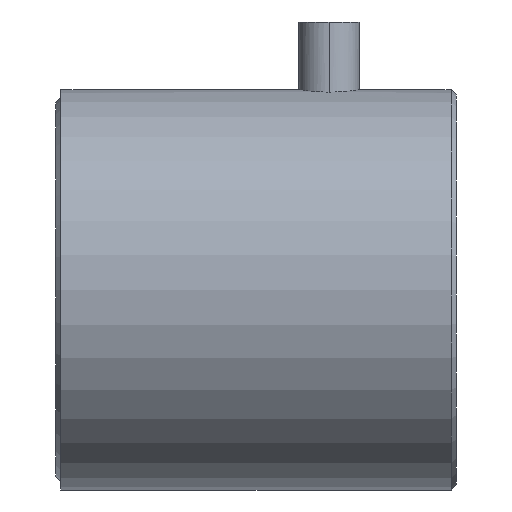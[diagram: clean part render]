
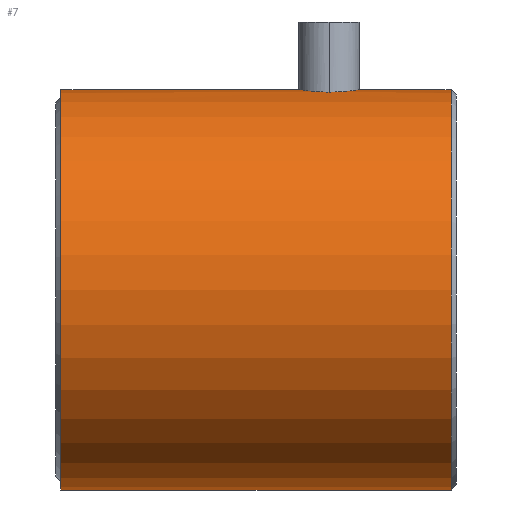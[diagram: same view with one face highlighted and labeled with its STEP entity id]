
A CAD part, left-side view. The second image highlights one B-rep face of the part: STEP entity #7.
In plain terms, the highlighted cylindrical face has radius 14.999 mm (diameter 29.997 mm), a partial arc.
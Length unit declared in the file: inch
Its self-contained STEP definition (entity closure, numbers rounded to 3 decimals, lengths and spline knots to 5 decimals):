
#7 = ADVANCED_FACE ( 'NONE', ( #91 ), #67, .T. ) ;
#12 = ORIENTED_EDGE ( 'NONE', *, *, #381, .T. ) ;
#19 = ORIENTED_EDGE ( 'NONE', *, *, #397, .F. ) ;
#31 = ORIENTED_EDGE ( 'NONE', *, *, #398, .T. ) ;
#33 = ORIENTED_EDGE ( 'NONE', *, *, #404, .T. ) ;
#44 = ORIENTED_EDGE ( 'NONE', *, *, #363, .T. ) ;
#50 = EDGE_LOOP ( 'NONE', ( #19, #54, #31, #33, #56, #12, #44 ) ) ;
#54 = ORIENTED_EDGE ( 'NONE', *, *, #399, .F. ) ;
#56 = ORIENTED_EDGE ( 'NONE', *, *, #386, .F. ) ;
#67 = CYLINDRICAL_SURFACE ( 'NONE', #385, 0.5905 ) ;
#91 = FACE_OUTER_BOUND ( 'NONE', #50, .T. ) ;
#108 = LINE ( 'NONE', #233, #117 ) ;
#110 = CIRCLE ( 'NONE', #376, 0.5905 ) ;
#113 = LINE ( 'NONE', #235, #115 ) ;
#115 = VECTOR ( 'NONE', #211, 39.37008 ) ;
#117 = VECTOR ( 'NONE', #227, 39.37008 ) ;
#119 = VECTOR ( 'NONE', #228, 39.37008 ) ;
#129 = LINE ( 'NONE', #222, #119 ) ;
#130 = CIRCLE ( 'NONE', #384, 0.5905 ) ;
#144 = CARTESIAN_POINT ( 'NONE',  ( -0.08763, 0.39862, 0.58398 ) ) ;
#146 = CARTESIAN_POINT ( 'NONE',  ( 0., 0.465, 0.5905 ) ) ;
#147 = CARTESIAN_POINT ( 'NONE',  ( -0.09, 0.375, 0.5836 ) ) ;
#148 = CARTESIAN_POINT ( 'NONE',  ( -0.0809, 0.41487, 0.58494 ) ) ;
#150 = CARTESIAN_POINT ( 'NONE',  ( -0.06781, 0.43447, 0.58661 ) ) ;
#151 = CARTESIAN_POINT ( 'NONE',  ( 0., 0.015, -0.5905 ) ) ;
#153 = CARTESIAN_POINT ( 'NONE',  ( 0., 1.166, 0.5905 ) ) ;
#154 = CARTESIAN_POINT ( 'NONE',  ( 0., 0.015, 0.5905 ) ) ;
#155 = CARTESIAN_POINT ( 'NONE',  ( 0., 0.285, 0.5905 ) ) ;
#158 = CARTESIAN_POINT ( 'NONE',  ( -0.05489, 0.44657, 0.58796 ) ) ;
#160 = CARTESIAN_POINT ( 'NONE',  ( -0.09, 0.375, 0.5836 ) ) ;
#166 = CARTESIAN_POINT ( 'NONE',  ( -0.0781, 0.42012, 0.58532 ) ) ;
#169 = CARTESIAN_POINT ( 'NONE',  ( -0.05951, 0.44277, 0.58751 ) ) ;
#170 = CARTESIAN_POINT ( 'NONE',  ( 0., 0.465, 0.5905 ) ) ;
#177 = CARTESIAN_POINT ( 'NONE',  ( -0.02905, 0.46039, 0.58981 ) ) ;
#178 = CARTESIAN_POINT ( 'NONE',  ( -0.03995, 0.45586, 0.58917 ) ) ;
#179 = CARTESIAN_POINT ( 'NONE',  ( -0.01182, 0.46441, 0.59041 ) ) ;
#189 = CARTESIAN_POINT ( 'NONE',  ( -0.07153, 0.42994, 0.58616 ) ) ;
#190 = CARTESIAN_POINT ( 'NONE',  ( -0.04512, 0.45309, 0.58879 ) ) ;
#191 = CARTESIAN_POINT ( 'NONE',  ( -0.02333, 0.46212, 0.59007 ) ) ;
#192 = CARTESIAN_POINT ( 'NONE',  ( -0.00595, 0.465, 0.5905 ) ) ;
#195 = CARTESIAN_POINT ( 'NONE',  ( -0.09, 0.38676, 0.5836 ) ) ;
#201 = CARTESIAN_POINT ( 'NONE',  ( 0., 1.166, -0.5905 ) ) ;
#203 = CARTESIAN_POINT ( 'NONE',  ( -0.06784, 0.31556, 0.58661 ) ) ;
#208 = CARTESIAN_POINT ( 'NONE',  ( -0.07807, 0.32984, 0.58533 ) ) ;
#209 = CARTESIAN_POINT ( 'NONE',  ( -0.04517, 0.29694, 0.58879 ) ) ;
#211 = DIRECTION ( 'NONE',  ( 0., -1., 0. ) ) ;
#212 = CARTESIAN_POINT ( 'NONE',  ( -0.03991, 0.29412, 0.58917 ) ) ;
#216 = CARTESIAN_POINT ( 'NONE',  ( -0.0871, 0.3516, 0.58404 ) ) ;
#217 = CARTESIAN_POINT ( 'NONE',  ( -0.00588, 0.285, 0.5905 ) ) ;
#218 = CARTESIAN_POINT ( 'NONE',  ( -0.08089, 0.3351, 0.58494 ) ) ;
#219 = DIRECTION ( 'NONE',  ( 0., 0., 1. ) ) ;
#222 = CARTESIAN_POINT ( 'NONE',  ( 0., 1.181, 0.5905 ) ) ;
#223 = CARTESIAN_POINT ( 'NONE',  ( 0., 0.015, 0. ) ) ;
#224 = CARTESIAN_POINT ( 'NONE',  ( -0.05946, 0.30718, 0.58751 ) ) ;
#225 = CARTESIAN_POINT ( 'NONE',  ( -0.09, 0.36912, 0.5836 ) ) ;
#226 = CARTESIAN_POINT ( 'NONE',  ( -0.09, 0.375, 0.5836 ) ) ;
#227 = DIRECTION ( 'NONE',  ( 0., -1., 0. ) ) ;
#228 = DIRECTION ( 'NONE',  ( 0., -1., 0. ) ) ;
#229 = CARTESIAN_POINT ( 'NONE',  ( 0., 1.166, 0. ) ) ;
#232 = DIRECTION ( 'NONE',  ( 0., 1., 0. ) ) ;
#233 = CARTESIAN_POINT ( 'NONE',  ( 0., 1.181, 0.5905 ) ) ;
#234 = CARTESIAN_POINT ( 'NONE',  ( -0.05491, 0.30345, 0.58796 ) ) ;
#235 = CARTESIAN_POINT ( 'NONE',  ( 0., 1.181, -0.5905 ) ) ;
#238 = CARTESIAN_POINT ( 'NONE',  ( -0.0854, 0.34599, 0.5843 ) ) ;
#239 = CARTESIAN_POINT ( 'NONE',  ( 0., 0.285, 0.5905 ) ) ;
#240 = CARTESIAN_POINT ( 'NONE',  ( -0.08941, 0.36315, 0.58369 ) ) ;
#243 = DIRECTION ( 'NONE',  ( 0., 1., 0. ) ) ;
#245 = CARTESIAN_POINT ( 'NONE',  ( -0.01185, 0.28559, 0.59041 ) ) ;
#249 = CARTESIAN_POINT ( 'NONE',  ( -0.07156, 0.3201, 0.58616 ) ) ;
#251 = CARTESIAN_POINT ( 'NONE',  ( -0.0234, 0.2879, 0.59006 ) ) ;
#252 = CARTESIAN_POINT ( 'NONE',  ( -0.02901, 0.2896, 0.58981 ) ) ;
#257 = DIRECTION ( 'NONE',  ( 0., 0., 1. ) ) ;
#294 = VERTEX_POINT ( 'NONE', #153 ) ;
#296 = VERTEX_POINT ( 'NONE', #170 ) ;
#299 = VERTEX_POINT ( 'NONE', #201 ) ;
#300 = VERTEX_POINT ( 'NONE', #154 ) ;
#305 = VERTEX_POINT ( 'NONE', #155 ) ;
#312 = VERTEX_POINT ( 'NONE', #151 ) ;
#314 = VERTEX_POINT ( 'NONE', #160 ) ;
#320 = DIRECTION ( 'NONE',  ( 0., -1., 0. ) ) ;
#321 = DIRECTION ( 'NONE',  ( 0., 0., -1. ) ) ;
#325 = CARTESIAN_POINT ( 'NONE',  ( 0., 1.181, 0. ) ) ;
#355 = B_SPLINE_CURVE_WITH_KNOTS ( 'NONE', 3,
 ( #239, #217, #245, #251, #252, #212, #209, #234, #224, #203, #249, #208, #218, #238, #216, #240, #225, #226 ),
 .UNSPECIFIED., .F., .F.,
 ( 4, 2, 2, 2, 2, 2, 2, 2, 4 ),
 ( 0.00358, 0.00403, 0.00447, 0.00492, 0.00537, 0.00582, 0.00626, 0.00671, 0.00716 ),
 .UNSPECIFIED. ) ;
#357 = B_SPLINE_CURVE_WITH_KNOTS ( 'NONE', 3,
 ( #147, #195, #144, #148, #166, #189, #150, #169, #158, #190, #178, #177, #191, #179, #192, #146 ),
 .UNSPECIFIED., .F., .F.,
 ( 4, 2, 2, 2, 2, 2, 2, 4 ),
 ( 0.00716, 0.00805, 0.0085, 0.00895, 0.00939, 0.00984, 0.01029, 0.01074 ),
 .UNSPECIFIED. ) ;
#363 = EDGE_CURVE ( 'NONE', #314, #296, #357, .T. ) ;
#376 = AXIS2_PLACEMENT_3D ( 'NONE', #223, #232, #257 ) ;
#381 = EDGE_CURVE ( 'NONE', #305, #314, #355, .T. ) ;
#384 = AXIS2_PLACEMENT_3D ( 'NONE', #229, #243, #219 ) ;
#385 = AXIS2_PLACEMENT_3D ( 'NONE', #325, #320, #321 ) ;
#386 = EDGE_CURVE ( 'NONE', #305, #300, #108, .T. ) ;
#397 = EDGE_CURVE ( 'NONE', #294, #296, #129, .T. ) ;
#398 = EDGE_CURVE ( 'NONE', #299, #312, #113, .T. ) ;
#399 = EDGE_CURVE ( 'NONE', #299, #294, #130, .T. ) ;
#404 = EDGE_CURVE ( 'NONE', #312, #300, #110, .T. ) ;
